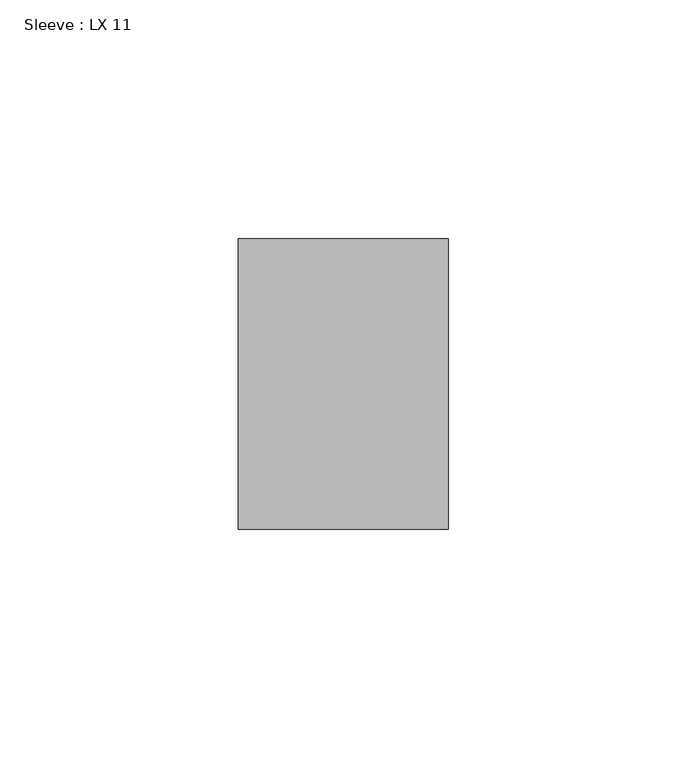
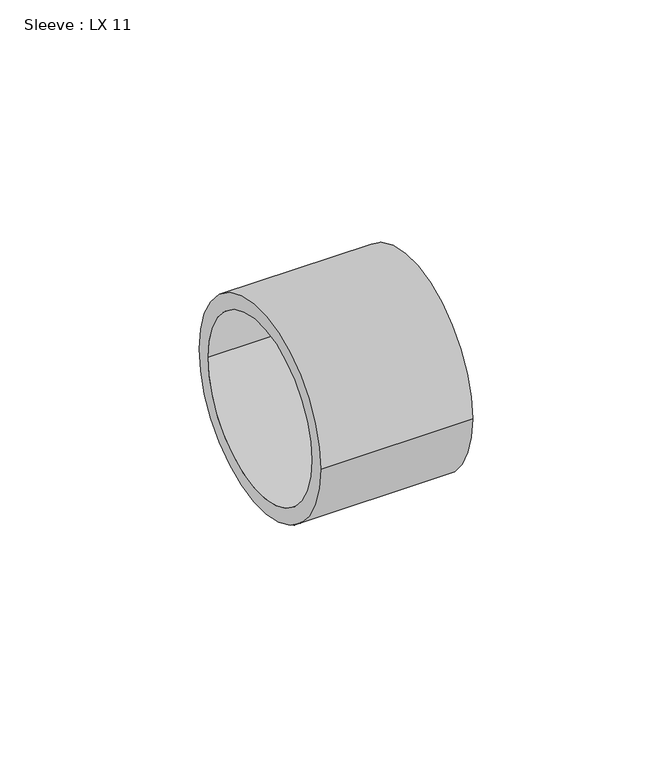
"""IFC4 building model written with IfcOpenShell, lengths in millimetres: pipe fitting geometry, Sleeve : LX 11."""

from ifc_helpers import new_model, si_unit, point, frame, origin, origin_2d, place, context, project, spatial, circle_curve, trimmed, segment, composite_curve, outline, extrude, source, transform, mapped, element, save


def sleeve_lx_11_6951dc15(model_context):
    return source(origin(), model_context, "Body", "SweptSolid", [
        extrude(outline(composite_curve([segment(trimmed(circle_curve(origin_2d(), 30.5), [point((30.5, 0.0))], [point((-30.5, 0.0))], False, "CARTESIAN"), True, "CONTINUOUS"), segment(trimmed(circle_curve(origin_2d(), 30.5), [point((-30.5, 0.0))], [point((30.5, 0.0))], False, "CARTESIAN"), True, "CONTINUOUS")], self_intersect=False), holes=[composite_curve([segment(trimmed(circle_curve(origin_2d(), 26.05), [point((26.05, 0.0))], [point((-26.05, 0.0))], True, "CARTESIAN"), True, "CONTINUOUS"), segment(trimmed(circle_curve(origin_2d(), 26.05), [point((-26.05, 0.0))], [point((26.05, 0.0))], True, "CARTESIAN"), True, "CONTINUOUS")], self_intersect=False)]), frame((0.0, 0.0, 0.0), z_axis=(1.0, 0.0, 0.0), x_axis=(0.0, 1.0, 0.0)), (0.0, 0.0, 1.0), 44.0),
    ])


if __name__ == "__main__":
    model = new_model("IFC4")
    model_context = context("Model", 3, world=origin())
    ifc_project = project(units=[si_unit("LENGTHUNIT", "METRE", prefix="MILLI")], contexts=[model_context])
    site = spatial("IfcSite", under=ifc_project)
    building = spatial("IfcBuilding", under=site)
    placement = place(None, origin())
    sleeve_lx_11_shape = sleeve_lx_11_6951dc15(model_context)
    element("IfcPipeFitting", 1, ObjectType="Sleeve : LX 11", at=placement, inside=building, context=model_context, shape_type="MappedRepresentation", body=[
        mapped(sleeve_lx_11_shape, transform((0.0, 0.0, 0.0), x_axis=(1.0, 0.0, 0.0), y_axis=(0.0, 1.0, 0.0), z_axis=(0.0, 0.0, 1.0))),
    ])
    save(model, "model.ifc")
